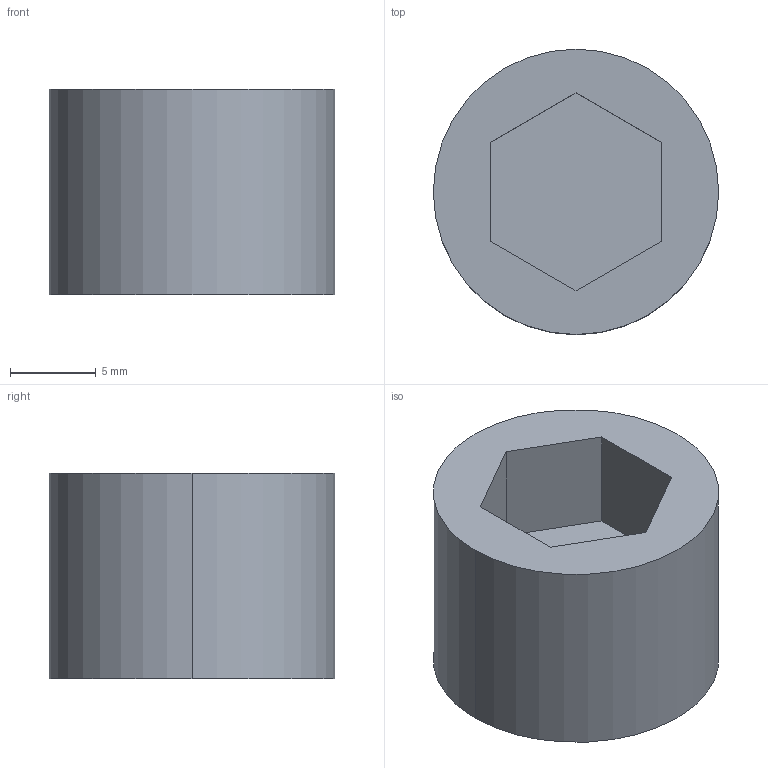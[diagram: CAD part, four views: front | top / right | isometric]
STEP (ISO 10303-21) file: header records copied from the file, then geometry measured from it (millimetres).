
FILE_DESCRIPTION (( 'STEP AP214' ), '1' );
FILE_NAME ('BruYRubio_BR94-3_8_GAS.STEP', '2020-06-23T10:08:16', ( '' ), ( '' ), 'SwSTEP 2.0', 'SolidWorks 2018', '' );
FILE_SCHEMA (( 'AUTOMOTIVE_DESIGN' ));
Length unit declared in the file: millimetre
Products named in the file (1): BruYRubio_BR94-3_8_GAS
Bounding box: 16.66 x 16.66 x 12 mm (x, y, z)
Volume: 2096.9 mm3; surface area: 1272.1 mm2
Topology: 1 solids, 1 shells, 11 faces, 24 edges, 16 vertices
Faces by surface type: plane 9, cylinder 2
Entity records: 336 total; most frequent: DIRECTION 52, CARTESIAN_POINT 52, ORIENTED_EDGE 48, EDGE_CURVE 24, VECTOR 20, LINE 20, AXIS2_PLACEMENT_3D 16, VERTEX_POINT 16
